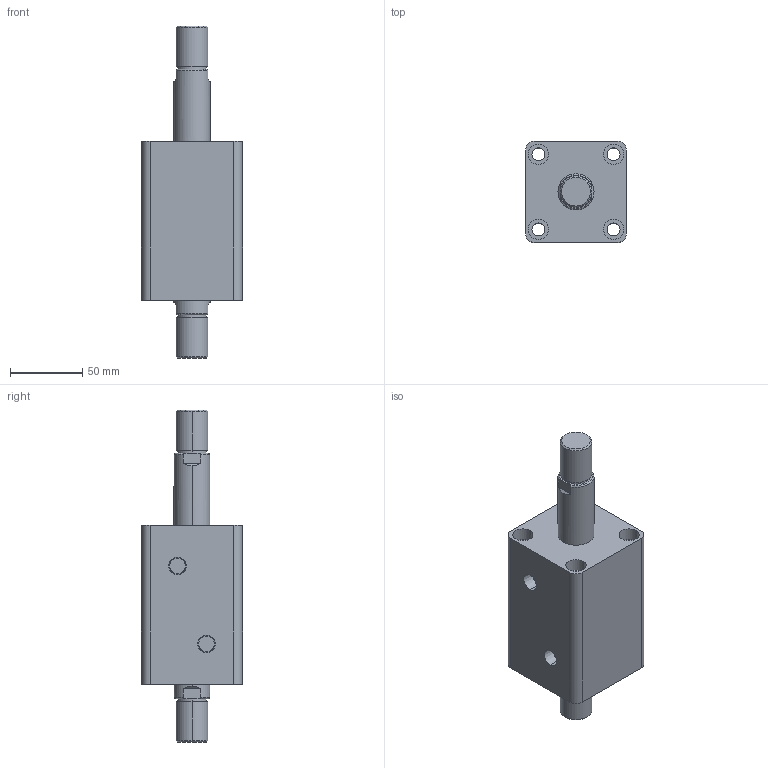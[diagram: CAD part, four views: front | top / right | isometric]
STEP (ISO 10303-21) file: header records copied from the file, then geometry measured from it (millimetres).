
FILE_DESCRIPTION (( 'STEP AP203' ), '1' );
FILE_NAME ('HTB-SW40-40W.STEP', '2019-10-07T09:07:53', ( '微软用户' ), ( '微软中国' ), 'SwSTEP 2.0', 'SolidWorks 2012', '' );
FILE_SCHEMA (( 'CONFIG_CONTROL_DESIGN' ));
Length unit declared in the file: millimetre
Products named in the file (3): HTB-SW40-40W; HTB-SW40-40W活塞杆; HTB-SW40-40掛极
Assembly tree (2 placements, depth 2):
  HTB-SW40-40W
    HTB-SW40-40掛极
    HTB-SW40-40W活塞杆
Bounding box: 70 x 70 x 230 mm (x, y, z)
Volume: 519977.2 mm3; surface area: 85782.9 mm2
Topology: 2 solids, 2 shells, 108 faces, 240 edges, 156 vertices
Faces by surface type: cylinder 52, plane 36, torus 12, cone 8
Entity records: 3449 total; most frequent: CARTESIAN_POINT 629, DIRECTION 586, ORIENTED_EDGE 480, AXIS2_PLACEMENT_3D 249, EDGE_CURVE 240, VERTEX_POINT 156, EDGE_LOOP 138, CIRCLE 136
